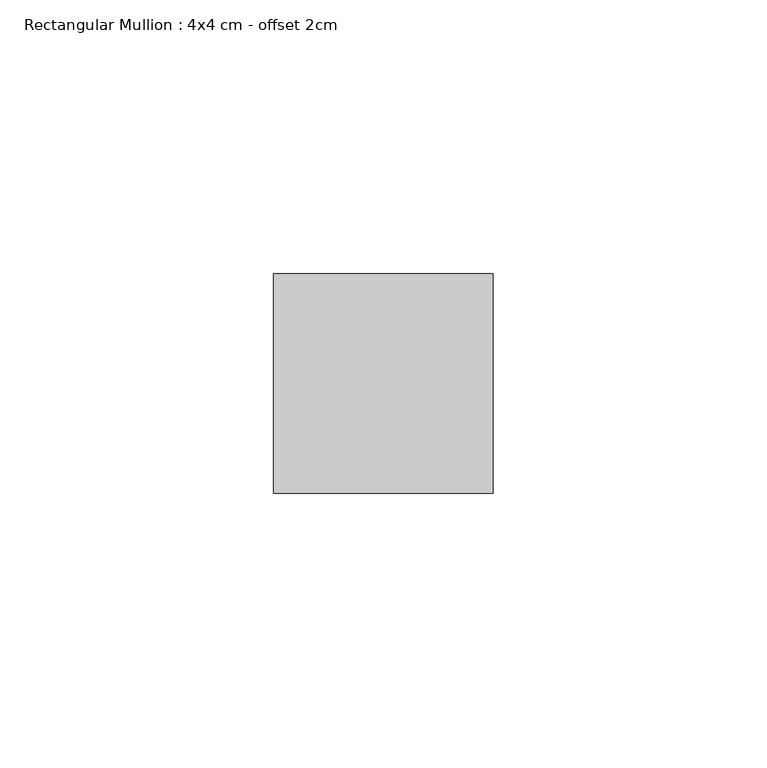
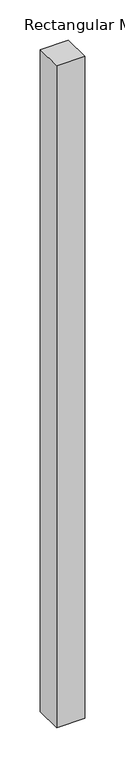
"""IFC4 building model written with IfcOpenShell, lengths in millimetres: member geometry, Rectangular Mullion : 4x4 cm - offset 2cm."""

import ifcopenshell
import ifcopenshell.guid

model = None  # the IFC model being written
_history = None  # IfcOwnerHistory: only IFC2X3 demands one
_inside = {}  # id of a spatial element -> (the spatial element, [elements in it])
_under = {}  # id of a project, library or spatial element -> (it, [spatial elements below it])
_declared = {}  # id of a project -> (the project, [libraries it declares])
_typed = {}  # id of a type object -> (the type object, [elements of that type])
_made_of = {}  # id of a material, layer set ... -> (it, [elements and type objects made of it])


def new_model(schema):
    """Start an empty IFC model of exactly this schema.

    Asked for "IFC4X3", IfcOpenShell would pick the latest addendum, in which some entities
    have other attributes; the version numbers below select the first issue.
    IFC2X3 requires an IfcOwnerHistory on every rooted entity: one is made here for all.
    """
    global model, _history
    if schema == "IFC4X3":
        model = ifcopenshell.file(schema_version=(4, 3, 0, 0))
    else:
        model = ifcopenshell.file(schema=schema)
    _inside.clear()
    _under.clear()
    _declared.clear()
    _typed.clear()
    _made_of.clear()
    _history = None
    if model.schema == "IFC2X3":
        org = make("IfcOrganization", Name="unknown")
        user = make(
            "IfcPersonAndOrganization",
            ThePerson=make("IfcPerson", FamilyName="unknown"),
            TheOrganization=org,
        )
        app = make(
            "IfcApplication",
            ApplicationDeveloper=org,
            Version="unknown",
            ApplicationFullName="unknown",
            ApplicationIdentifier="unknown",
        )
        _history = make(
            "IfcOwnerHistory",
            OwningUser=user,
            OwningApplication=app,
            ChangeAction="ADDED",
            CreationDate=0,
        )
    return model


def make(cls, **values):
    """One entity of the class cls with the attributes given. An attribute that is None is left unset."""
    return model.create_entity(
        cls, **{name: value for name, value in values.items() if value is not None}
    )


def rooted(cls, **values):
    """An entity with a GlobalId (a new one), such as an element, a storey or a relation."""
    return make(cls, GlobalId=ifcopenshell.guid.new(), OwnerHistory=_history, **values)


def si_unit(unit_type, name, prefix=None):
    """IfcSIUnit, for example si_unit("LENGTHUNIT", "METRE", prefix="MILLI")."""
    return make("IfcSIUnit", UnitType=unit_type, Prefix=prefix, Name=name)


def assignment(units):
    """IfcUnitAssignment: the units of a project."""
    return None if units is None else make("IfcUnitAssignment", Units=units)


def point(xyz):
    """IfcCartesianPoint."""
    return None if xyz is None else make("IfcCartesianPoint", Coordinates=xyz)


def direction(xyz):
    """IfcDirection."""
    return None if xyz is None else make("IfcDirection", DirectionRatios=xyz)


def frame(location, z_axis=None, x_axis=None):
    """IfcAxis2Placement3D, a coordinate frame: its origin and axes. An axis left out is left unset."""
    return make(
        "IfcAxis2Placement3D",
        Location=point(location),
        Axis=direction(z_axis),
        RefDirection=direction(x_axis),
    )


def origin():
    """The frame at (0, 0, 0) with its axes left unset."""
    return frame((0.0, 0.0, 0.0))


def place(relative_to, where):
    """IfcLocalPlacement: puts the frame where relative to a parent placement (None: the world)."""
    return make(
        "IfcLocalPlacement", PlacementRelTo=relative_to, RelativePlacement=where
    )


def context(
    kind, dimensions, precision=None, world=None, true_north=None, identifier=None
):
    """IfcGeometricRepresentationContext, for example the 3D "Model" context."""
    return make(
        "IfcGeometricRepresentationContext",
        ContextIdentifier=identifier,
        ContextType=kind,
        CoordinateSpaceDimension=dimensions,
        Precision=precision,
        WorldCoordinateSystem=world,
        TrueNorth=true_north,
    )


def project(units=None, contexts=None):
    """IfcProject with its units and contexts."""
    return rooted(
        "IfcProject",
        Name="project",
        RepresentationContexts=contexts,
        UnitsInContext=assignment(units),
    )


def spatial(cls, under=None, at=None, **own):
    """A site, building, storey or space (cls), placed at a placement, below another one or the project."""
    s = rooted(cls, ObjectPlacement=at, **own)
    if under is not None:
        _under.setdefault(under.id(), (under, []))[1].append(s)
    return s


def polyline(points):
    """IfcPolyline through the points."""
    return make("IfcPolyline", Points=[point(p) for p in points])


def outline(outer, holes=None, kind="AREA"):
    """IfcArbitraryClosedProfileDef: a profile drawn as a closed curve; with holes, ...WithVoids."""
    if holes is None:
        return make("IfcArbitraryClosedProfileDef", ProfileType=kind, OuterCurve=outer)
    return make(
        "IfcArbitraryProfileDefWithVoids",
        ProfileType=kind,
        OuterCurve=outer,
        InnerCurves=holes,
    )


def extrude(swept, where, along, depth):
    """IfcExtrudedAreaSolid: the profile swept, set in the frame where, extruded along a direction by depth."""
    return make(
        "IfcExtrudedAreaSolid",
        SweptArea=swept,
        Position=where,
        ExtrudedDirection=direction(along),
        Depth=depth,
    )


def shape(context_of_items, identifier, shape_type, items):
    """IfcShapeRepresentation: the items that make up one representation, for example the "Body"."""
    return make(
        "IfcShapeRepresentation",
        ContextOfItems=context_of_items,
        RepresentationIdentifier=identifier,
        RepresentationType=shape_type,
        Items=items,
    )


def source(mapping_origin, context_of_items, identifier, shape_type, items):
    """IfcRepresentationMap: a shape defined once, which mapped items show again and again."""
    return make(
        "IfcRepresentationMap",
        MappingOrigin=mapping_origin,
        MappedRepresentation=shape(context_of_items, identifier, shape_type, items),
    )


def transform(
    local_origin,
    x_axis=None,
    y_axis=None,
    z_axis=None,
    scale=None,
    scale2=None,
    scale3=None,
    uniform=True,
):
    """IfcCartesianTransformationOperator3D, or its non-uniform kind. x_axis, y_axis, z_axis: its Axis1, 2, 3."""
    if uniform:
        return make(
            "IfcCartesianTransformationOperator3D",
            Axis1=direction(x_axis),
            Axis2=direction(y_axis),
            LocalOrigin=point(local_origin),
            Scale=scale,
            Axis3=direction(z_axis),
        )
    return make(
        "IfcCartesianTransformationOperator3DnonUniform",
        Axis1=direction(x_axis),
        Axis2=direction(y_axis),
        LocalOrigin=point(local_origin),
        Scale=scale,
        Axis3=direction(z_axis),
        Scale2=scale2,
        Scale3=scale3,
    )


def mapped(mapping_source, mapping_target):
    """IfcMappedItem: shows the shape of a source again, moved by a transform."""
    return make(
        "IfcMappedItem", MappingSource=mapping_source, MappingTarget=mapping_target
    )


def made_of(thing, what):
    """Note that an element or type object is made of a material, layer set ...; save() writes the relation."""
    if what is not None:
        _made_of.setdefault(what.id(), (what, []))[1].append(thing)
    return thing


def element(
    cls,
    number,
    at=None,
    inside=None,
    cuts=None,
    type_object=None,
    material=None,
    context=None,
    identifier="Body",
    shape_type=None,
    held_by="IfcProductDefinitionShape",
    body=None,
    shapes=None,
    **own,
):
    """One element of the class cls, such as IfcWall. Its Tag is "e" and its number.

    at: its placement. inside: the storey or other place that contains it. cuts: it is an
    opening in that element (IfcRelVoidsElement). A single representation is given by context,
    identifier, shape_type and body (its items); several are given by shapes. held_by: the class
    of the entity that holds the representations. save() writes the other relations.
    """
    e = rooted(cls, Tag="e%d" % number, ObjectPlacement=at, **own)
    if body is not None:
        shapes = [shape(context, identifier, shape_type, body)]
    if shapes is not None:
        e.Representation = make(held_by, Representations=shapes)
    if inside is not None:
        _inside.setdefault(inside.id(), (inside, []))[1].append(e)
    if cuts is not None:
        rooted(
            "IfcRelVoidsElement", RelatingBuildingElement=cuts, RelatedOpeningElement=e
        )
    if type_object is not None:
        _typed.setdefault(type_object.id(), (type_object, []))[1].append(e)
    return made_of(e, material)


def aggregate(whole, parts):
    """IfcRelAggregates: a whole, such as a stair, and the parts it consists of."""
    return rooted("IfcRelAggregates", RelatingObject=whole, RelatedObjects=parts)


def save(model, path):
    """Write the relations noted so far, then the file.

    IfcRelAggregates (storeys below a building ...), IfcRelContainedInSpatialStructure (elements
    in a storey), IfcRelDefinesByType, IfcRelAssociatesMaterial and IfcRelDeclares: one each for
    every whole, place, type object, material and project.
    """
    for whole, parts in _under.values():
        aggregate(whole, parts)
    for where, things in _inside.values():
        rooted(
            "IfcRelContainedInSpatialStructure",
            RelatedElements=things,
            RelatingStructure=where,
        )
    for kind, things in _typed.values():
        rooted("IfcRelDefinesByType", RelatedObjects=things, RelatingType=kind)
    for what, things in _made_of.values():
        rooted("IfcRelAssociatesMaterial", RelatedObjects=things, RelatingMaterial=what)
    for by, libraries in _declared.values():
        rooted("IfcRelDeclares", RelatingContext=by, RelatedDefinitions=libraries)
    model.write(path)


def rectangular_mullion_4x4_cm_offset_2cm_ddc5f716(model_context):
    return source(origin(), model_context, "Body", "SweptSolid", [
        extrude(outline(polyline([(0.0, 40.0), (0.0, 0.0), (-40.0, 0.0), (-40.0, 40.0), (0.0, 40.0)])), frame((0.0, 0.0, -1000.0), z_axis=(0.0, 0.0, 1.0), x_axis=(1.0, 0.0, 0.0)), (0.0, 0.0, 1.0), 1000.0),
    ])


if __name__ == "__main__":
    model = new_model("IFC4")
    model_context = context("Model", 3, world=origin())
    ifc_project = project(units=[si_unit("LENGTHUNIT", "METRE", prefix="MILLI")], contexts=[model_context])
    site = spatial("IfcSite", under=ifc_project)
    building = spatial("IfcBuilding", under=site)
    placement = place(None, origin())
    rectangular_mullion_4x4_cm_offset_2cm_shape = rectangular_mullion_4x4_cm_offset_2cm_ddc5f716(model_context)
    element("IfcMember", 1, ObjectType="Rectangular Mullion : 4x4 cm - offset 2cm", at=placement, inside=building, context=model_context, shape_type="MappedRepresentation", body=[
        mapped(rectangular_mullion_4x4_cm_offset_2cm_shape, transform((0.0, 0.0, 0.0), x_axis=(1.0, 0.0, 0.0), y_axis=(0.0, 1.0, 0.0), z_axis=(0.0, 0.0, 1.0))),
    ])
    save(model, "model.ifc")
